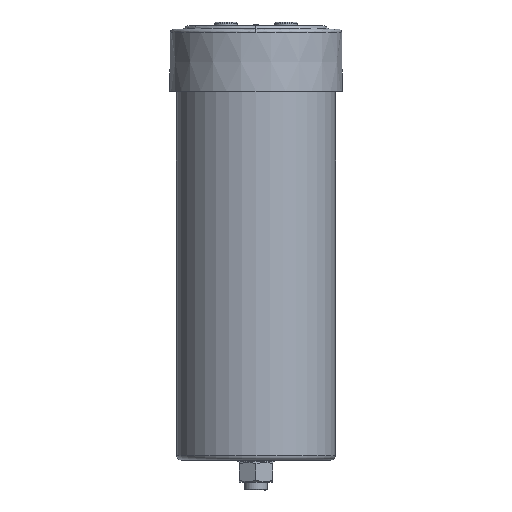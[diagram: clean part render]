
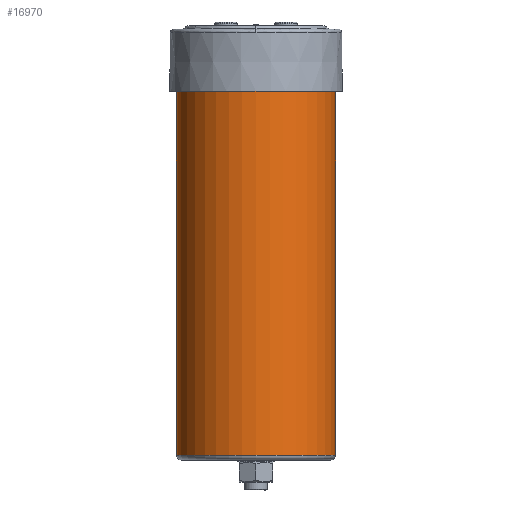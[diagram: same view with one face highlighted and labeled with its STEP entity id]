
A CAD part, left-side view. The second image highlights one B-rep face of the part: STEP entity #16970.
In plain terms, the highlighted cylindrical face has radius 42.5 mm (diameter 85 mm), a partial arc.
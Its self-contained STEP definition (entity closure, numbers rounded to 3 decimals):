
#1445 = VERTEX_POINT ( 'NONE', #1463 ) ;
#1463 = CARTESIAN_POINT ( 'NONE',  ( 0., -42.5, 0. ) ) ;
#1951 = DIRECTION ( 'NONE',  ( 0., 0., -1. ) ) ;
#1983 = EDGE_CURVE ( 'NONE', #1445, #17478, #9757, .T. ) ;
#2127 = ORIENTED_EDGE ( 'NONE', *, *, #8608, .T. ) ;
#2649 = DIRECTION ( 'NONE',  ( 0., 0., -1. ) ) ;
#2781 = VECTOR ( 'NONE', #5966, 1000. ) ;
#2903 = CIRCLE ( 'NONE', #13436, 42.5 ) ;
#3045 = CARTESIAN_POINT ( 'NONE',  ( 0., 42.5, 0. ) ) ;
#3131 = CIRCLE ( 'NONE', #3643, 42.5 ) ;
#3549 = ORIENTED_EDGE ( 'NONE', *, *, #9170, .F. ) ;
#3643 = AXIS2_PLACEMENT_3D ( 'NONE', #7281, #13150, #16159 ) ;
#5228 = DIRECTION ( 'NONE',  ( 0., 0., 1. ) ) ;
#5966 = DIRECTION ( 'NONE',  ( 0., 0., -1. ) ) ;
#6574 = ORIENTED_EDGE ( 'NONE', *, *, #1983, .F. ) ;
#7281 = CARTESIAN_POINT ( 'NONE',  ( 0., 0., 0. ) ) ;
#7577 = CARTESIAN_POINT ( 'NONE',  ( 0., -42.5, -225. ) ) ;
#8608 = EDGE_CURVE ( 'NONE', #17245, #17478, #2903, .T. ) ;
#9136 = EDGE_LOOP ( 'NONE', ( #3549, #16057, #2127, #6574 ) ) ;
#9170 = EDGE_CURVE ( 'NONE', #11577, #1445, #3131, .T. ) ;
#9306 = LINE ( 'NONE', #14674, #15337 ) ;
#9757 = LINE ( 'NONE', #7577, #2781 ) ;
#10017 = FACE_OUTER_BOUND ( 'NONE', #9136, .T. ) ;
#10204 = CARTESIAN_POINT ( 'NONE',  ( 0., -42.5, -222.5 ) ) ;
#10833 = CARTESIAN_POINT ( 'NONE',  ( 0., 0., -222.5 ) ) ;
#11577 = VERTEX_POINT ( 'NONE', #3045 ) ;
#13150 = DIRECTION ( 'NONE',  ( 0., 0., 1. ) ) ;
#13436 = AXIS2_PLACEMENT_3D ( 'NONE', #10833, #5228, #15597 ) ;
#13895 = DIRECTION ( 'NONE',  ( 0., -1., 0. ) ) ;
#14674 = CARTESIAN_POINT ( 'NONE',  ( 0., 42.5, -225. ) ) ;
#15337 = VECTOR ( 'NONE', #2649, 1000. ) ;
#15597 = DIRECTION ( 'NONE',  ( 0., -1., 0. ) ) ;
#16057 = ORIENTED_EDGE ( 'NONE', *, *, #17830, .T. ) ;
#16159 = DIRECTION ( 'NONE',  ( 0., 1., 0. ) ) ;
#16589 = AXIS2_PLACEMENT_3D ( 'NONE', #16778, #1951, #13895 ) ;
#16778 = CARTESIAN_POINT ( 'NONE',  ( 0., 0., -225. ) ) ;
#16951 = CYLINDRICAL_SURFACE ( 'NONE', #16589, 42.5 ) ;
#16970 = ADVANCED_FACE ( 'NONE', ( #10017 ), #16951, .T. ) ;
#17245 = VERTEX_POINT ( 'NONE', #17298 ) ;
#17298 = CARTESIAN_POINT ( 'NONE',  ( 0., 42.5, -222.5 ) ) ;
#17478 = VERTEX_POINT ( 'NONE', #10204 ) ;
#17830 = EDGE_CURVE ( 'NONE', #11577, #17245, #9306, .T. ) ;
